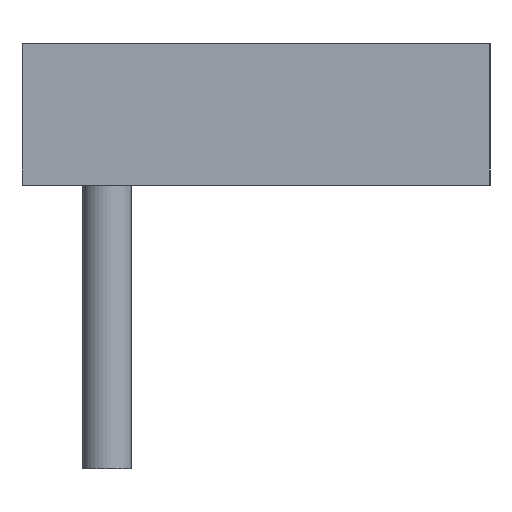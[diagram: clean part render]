
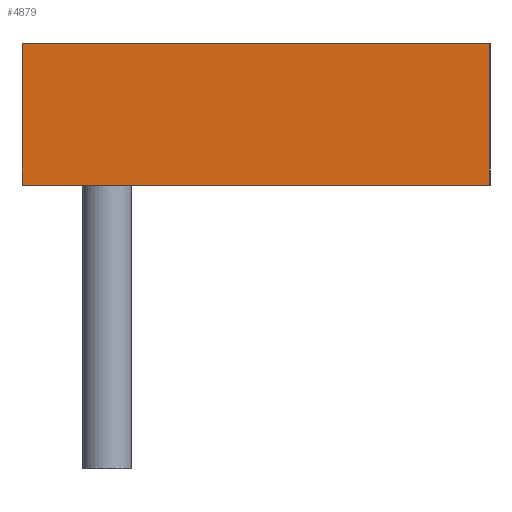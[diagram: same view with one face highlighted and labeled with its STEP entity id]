
A CAD part, left-side view. The second image highlights one B-rep face of the part: STEP entity #4879.
In plain terms, the highlighted planar face has unit normal (-1, 0, 0).
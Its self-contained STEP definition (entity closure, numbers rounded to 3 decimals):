
#48=PLANE('',#5213);
#376=FACE_OUTER_BOUND('',#667,.T.);
#667=EDGE_LOOP('',(#4319,#4320,#4321,#4322));
#1356=LINE('',#19823,#1639);
#1359=LINE('',#19829,#1642);
#1364=LINE('',#19838,#1647);
#1369=LINE('',#19846,#1652);
#1639=VECTOR('',#6112,10.);
#1642=VECTOR('',#6117,10.);
#1647=VECTOR('',#6126,10.);
#1652=VECTOR('',#6133,10.);
#2108=VERTEX_POINT('',#19820);
#2109=VERTEX_POINT('',#19822);
#2110=VERTEX_POINT('',#19826);
#2111=VERTEX_POINT('',#19828);
#2842=EDGE_CURVE('',#2109,#2108,#1356,.T.);
#2845=EDGE_CURVE('',#2111,#2110,#1359,.T.);
#2850=EDGE_CURVE('',#2110,#2109,#1364,.T.);
#2855=EDGE_CURVE('',#2108,#2111,#1369,.T.);
#4319=ORIENTED_EDGE('',*,*,#2845,.T.);
#4320=ORIENTED_EDGE('',*,*,#2850,.T.);
#4321=ORIENTED_EDGE('',*,*,#2842,.T.);
#4322=ORIENTED_EDGE('',*,*,#2855,.T.);
#4879=ADVANCED_FACE('',(#376),#48,.T.);
#5213=AXIS2_PLACEMENT_3D('',#19847,#6134,#6135);
#6112=DIRECTION('',(0.,0.,1.));
#6117=DIRECTION('',(0.,0.,-1.));
#6126=DIRECTION('',(0.,-1.,0.));
#6133=DIRECTION('',(0.,1.,0.));
#6134=DIRECTION('center_axis',(-1.,0.,0.));
#6135=DIRECTION('ref_axis',(0.,0.,1.));
#19820=CARTESIAN_POINT('',(-55.,-16.5,5.));
#19822=CARTESIAN_POINT('',(-55.,-16.5,-5.));
#19823=CARTESIAN_POINT('',(-55.,-16.5,-5.));
#19826=CARTESIAN_POINT('',(-55.,16.5,-5.));
#19828=CARTESIAN_POINT('',(-55.,16.5,5.));
#19829=CARTESIAN_POINT('',(-55.,16.5,5.));
#19838=CARTESIAN_POINT('',(-55.,16.5,-5.));
#19846=CARTESIAN_POINT('',(-55.,-16.5,5.));
#19847=CARTESIAN_POINT('Origin',(-55.,0.,0.));
